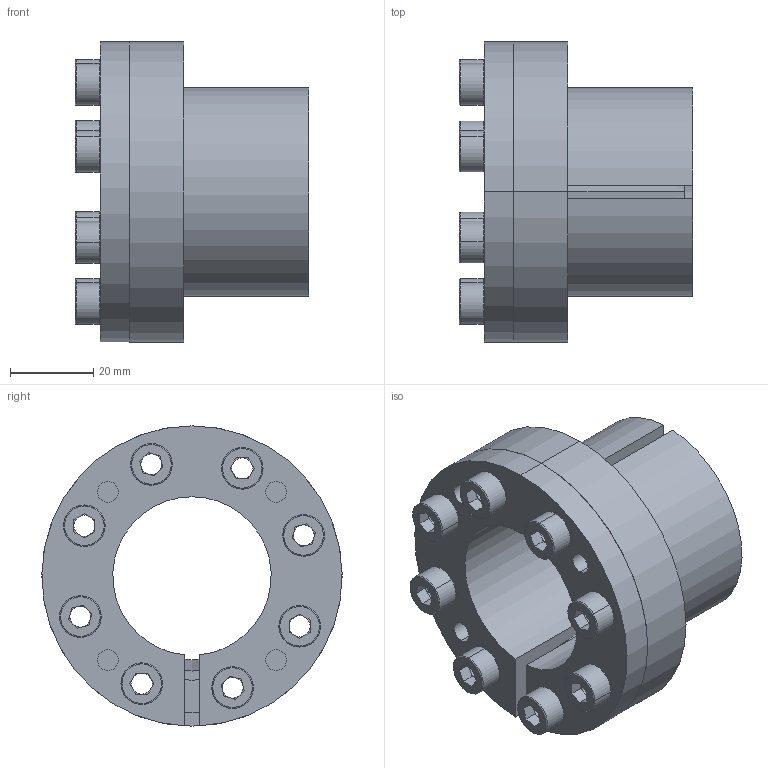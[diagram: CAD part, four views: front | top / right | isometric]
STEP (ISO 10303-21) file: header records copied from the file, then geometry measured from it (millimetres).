
FILE_DESCRIPTION (( 'STEP AP203' ), '1' );
FILE_NAME ('T-38-50.STEP', '2017-10-13T08:10:06', ( 'MYCOM' ), ( '' ), 'SwSTEP 2.0', 'SolidWorks 2015', '' );
FILE_SCHEMA (( 'CONFIG_CONTROL_DESIGN' ));
Length unit declared in the file: millimetre
Products named in the file (1): T-38-50
Bounding box: 56 x 72 x 72 mm (x, y, z)
Surface area: 42875.5 mm2 (no closed solid volume)
Topology: 0 solids, 11 shells, 211 faces, 551 edges, 346 vertices
Faces by surface type: plane 109, cylinder 67, torus 32, cone 3
Entity records: 6581 total; most frequent: DIRECTION 1239, CARTESIAN_POINT 1121, ORIENTED_EDGE 995, EDGE_CURVE 551, AXIS2_PLACEMENT_3D 480, VERTEX_POINT 346, LINE 279, VECTOR 279
